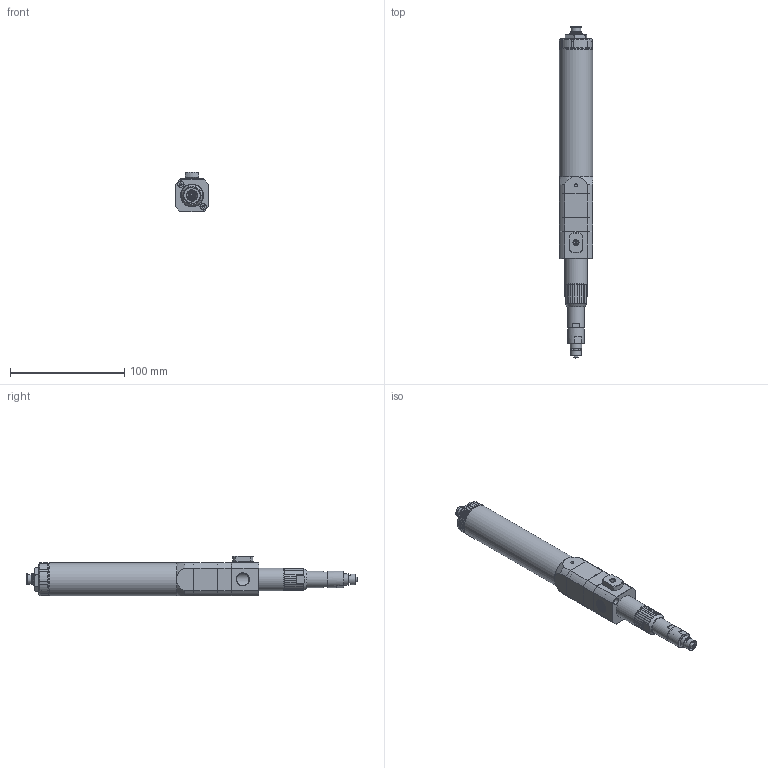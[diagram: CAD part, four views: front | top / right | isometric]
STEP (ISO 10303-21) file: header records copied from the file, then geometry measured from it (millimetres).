
FILE_DESCRIPTION (( 'STEP AP214' ), '1' );
FILE_NAME ('PCP-500-SY.STEP', '2024-10-11T11:36:20', ( '' ), ( '' ), 'SwSTEP 2.0', 'SolidWorks 2024', '' );
FILE_SCHEMA (( 'AUTOMOTIVE_DESIGN' ));
Length unit declared in the file: millimetre
Products named in the file (1): PCP-500-SY
Bounding box: 29 x 291 x 35 mm (x, y, z)
Volume: 68599.2 mm3; surface area: 63037.9 mm2
Topology: 21 solids, 21 shells, 726 faces, 1794 edges, 1149 vertices
Faces by surface type: plane 340, cylinder 212, cone 138, bspline 36
Full cylindrical faces by diameter (mm): 0.6 x1, 1 x5, 1.5 x1, 2 x1, 2.5 x9, 3 x6, 3.5 x14, 3.9 x1, 4 x1, 4.2 x1, 4.8 x1, 5.2 x1, 5.5 x4, 5.8 x6, 6 x6, 6.6 x2, 6.8 x1, 7 x1, 8 x1, 8.5 x1, 9 x3, 9.5 x1, 9.6 x2, 10 x3, 10.8 x2, 11.2 x1, 11.5 x1, 11.6 x1, 11.9 x1, 12 x1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
Entity records: 35778 total; most frequent: CARTESIAN_POINT 20079, DIRECTION 3121, ORIENTED_EDGE 2918, EDGE_CURVE 1459, AXIS2_PLACEMENT_3D 1279, EDGE_LOOP 1074, VERTEX_POINT 1053, FACE_OUTER_BOUND 873
